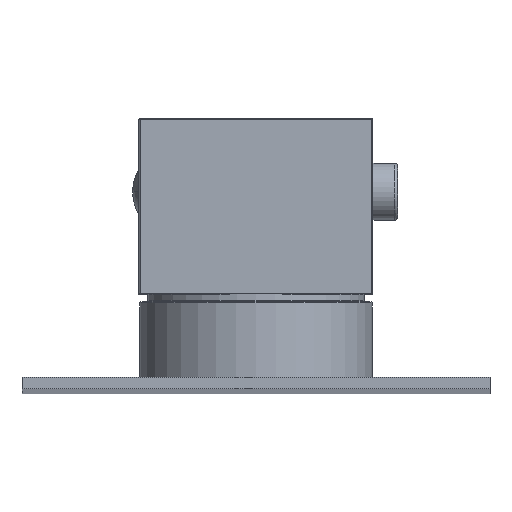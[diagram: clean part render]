
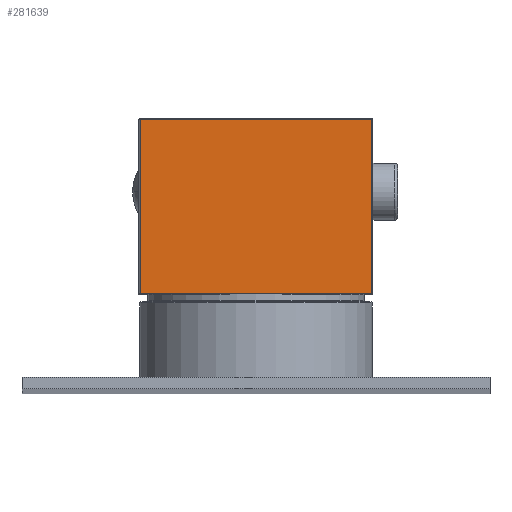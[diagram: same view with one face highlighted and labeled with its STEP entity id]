
A CAD part, top view. The second image highlights one B-rep face of the part: STEP entity #281639.
In plain terms, the highlighted planar face has unit normal (0, 0, 1).
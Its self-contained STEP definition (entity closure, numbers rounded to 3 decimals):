
#97670=DIRECTION('',(1.,0.,0.));
#97671=VECTOR('',#97670,39.5);
#97672=CARTESIAN_POINT('',(-19.75,113.1,20.));
#97673=LINE('',#97672,#97671);
#97716=DIRECTION('',(0.,1.,0.));
#97717=VECTOR('',#97716,29.75);
#97718=CARTESIAN_POINT('',(-19.75,113.1,20.));
#97719=LINE('',#97718,#97717);
#97720=DIRECTION('',(1.,0.,0.));
#97721=VECTOR('',#97720,39.5);
#97722=CARTESIAN_POINT('',(-19.75,142.85,20.));
#97723=LINE('',#97722,#97721);
#97724=DIRECTION('',(0.,1.,0.));
#97725=VECTOR('',#97724,29.75);
#97726=CARTESIAN_POINT('',(19.75,113.1,20.));
#97727=LINE('',#97726,#97725);
#97941=CARTESIAN_POINT('',(-19.75,113.1,20.));
#97943=VERTEX_POINT('',#97941);
#97945=CARTESIAN_POINT('',(-19.75,142.85,20.));
#97946=VERTEX_POINT('',#97945);
#97947=CARTESIAN_POINT('',(19.75,142.85,20.));
#97948=VERTEX_POINT('',#97947);
#97950=CARTESIAN_POINT('',(19.75,113.1,20.));
#97952=VERTEX_POINT('',#97950);
#281626=CARTESIAN_POINT('',(20.,113.1,20.));
#281627=DIRECTION('',(0.,0.,1.));
#281628=DIRECTION('',(-1.,0.,0.));
#281629=AXIS2_PLACEMENT_3D('',#281626,#281627,#281628);
#281630=PLANE('',#281629);
#281632=ORIENTED_EDGE('',*,*,#281631,.T.);
#281634=ORIENTED_EDGE('',*,*,#281633,.T.);
#281635=ORIENTED_EDGE('',*,*,#281618,.F.);
#281636=ORIENTED_EDGE('',*,*,#281531,.F.);
#281637=EDGE_LOOP('',(#281632,#281634,#281635,#281636));
#281638=FACE_OUTER_BOUND('',#281637,.F.);
#281639=ADVANCED_FACE('',(#281638),#281630,.T.);
#281531=EDGE_CURVE('',#97943,#97952,#97673,.T.);
#281618=EDGE_CURVE('',#97952,#97948,#97727,.T.);
#281631=EDGE_CURVE('',#97943,#97946,#97719,.T.);
#281633=EDGE_CURVE('',#97946,#97948,#97723,.T.);
